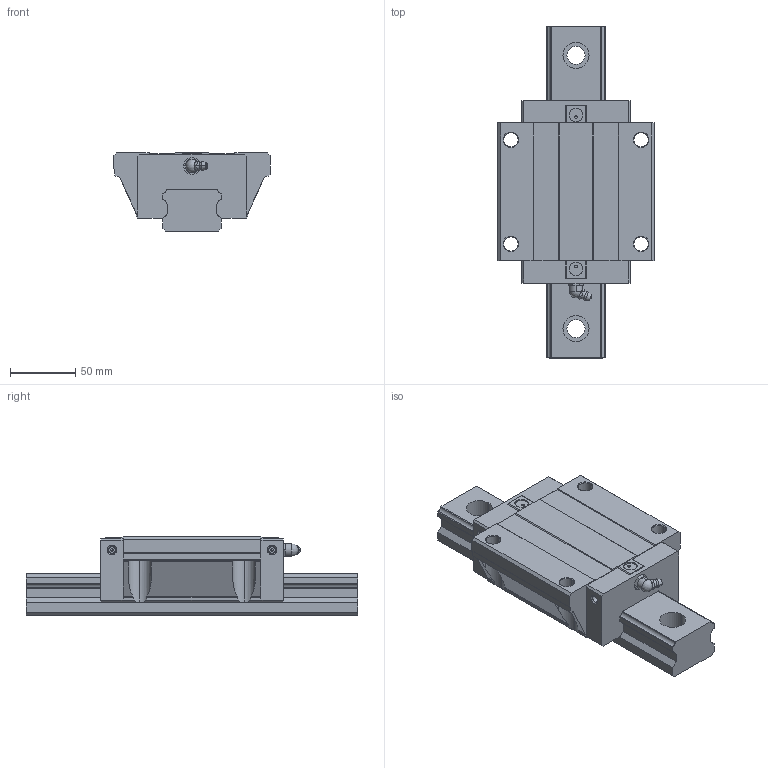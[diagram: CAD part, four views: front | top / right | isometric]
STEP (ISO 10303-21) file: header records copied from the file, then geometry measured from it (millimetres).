
FILE_DESCRIPTION((''),'1');
FILE_NAME(' ',' ',(''),(''),'ACIS Interop R16','Kubotek KeyCreator V6.5.2 (0407)',' ');
FILE_SCHEMA(('CONFIG_CONTROL_DESIGN'));
Length unit declared in the file: millimetre
Products named in the file (3): 1; 2; 3
Bounding box: 120 x 255 x 60 mm (x, y, z)
Volume: 868194.9 mm3; surface area: 109195 mm2
Topology: 3 solids, 3 shells, 265 faces, 710 edges, 469 vertices
Faces by surface type: plane 138, cylinder 94, cone 18, torus 10, sphere 3, bspline 2
Entity records: 8664 total; most frequent: CARTESIAN_POINT 1687, DIRECTION 1472, ORIENTED_EDGE 1416, EDGE_CURVE 708, AXIS2_PLACEMENT_3D 530, VERTEX_POINT 469, LINE 412, VECTOR 412
